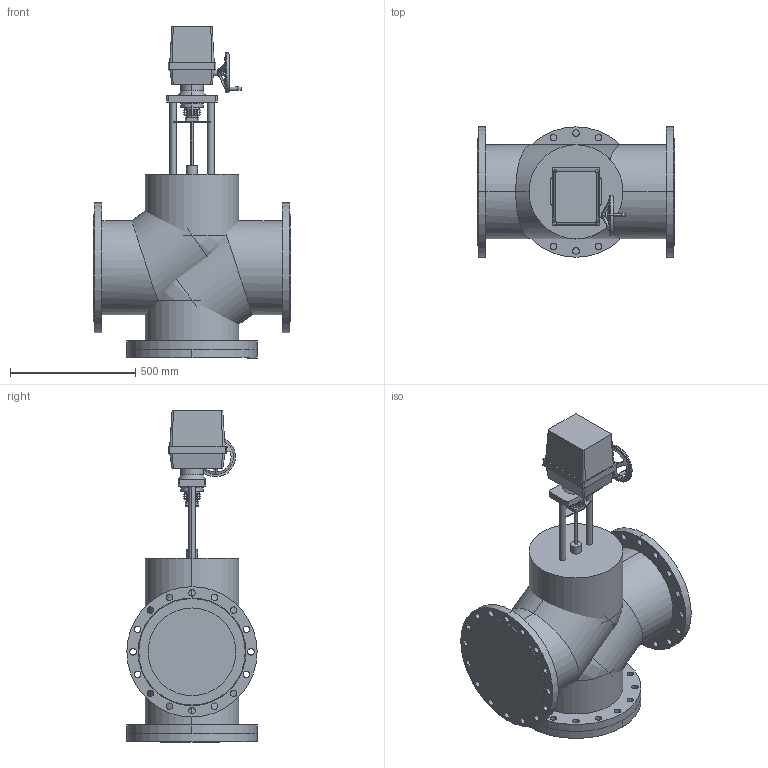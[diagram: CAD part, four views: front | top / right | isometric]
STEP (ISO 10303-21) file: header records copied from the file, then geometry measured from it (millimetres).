
FILE_DESCRIPTION(/* description */ (''),/* implementation_level */ '2;1');
FILE_NAME(/* name */ 'ТРК DN350 PN 1.6 МПа Regada ST2',/* time_stamp */ '2026-07-14T23:16:55+03:00',/* author */ (''),/* organization */ (''),/* preprocessor_version */ 'ST-DEVELOPER v20',/* originating_system */ '',/* authorisation */ '');
FILE_SCHEMA (('AP242_MANAGED_MODEL_BASED_3D_ENGINEERING_MIM_LF { 1 0 10303 442 1 1 4 }'));
Length unit declared in the file: millimetre
Products named in the file (14): TopLevelAssembly; Выдавливание; Модификатор; Модификатор_1; Выдавливание_
1; Выдавливание_
2; Вращение; Выдавливание_
3; Выдавливание_
4; Привод_Regada ST 2; Переход; Объемная геометрия 
присоединена; Полый Выдавливание; Объемная геометрия 
присоединена_1
Assembly tree (13 placements, depth 2):
  TopLevelAssembly
    Выдавливание
    Модификатор
    Модификатор_1
    Выдавливание_
1
    Выдавливание_
2
    Вращение
    Выдавливание_
3
    Выдавливание_
4
    Привод_Regada ST 2
    Переход
    Объемная геометрия 
присоединена
    Полый Выдавливание
    Объемная геометрия 
присоединена_1
Bounding box: 787 x 520 x 1325 mm (x, y, z)
Volume: 217593325.2 mm3; surface area: 5886656.3 mm2
Topology: 28 solids, 28 shells, 344 faces, 800 edges, 500 vertices
Faces by surface type: cylinder 180, plane 104, bspline 56, cone 4
Entity records: 11532 total; most frequent: CARTESIAN_POINT 2781, DIRECTION 1834, ORIENTED_EDGE 1580, EDGE_CURVE 790, AXIS2_PLACEMENT_3D 753, VERTEX_POINT 500, EDGE_LOOP 450, CIRCLE 430
